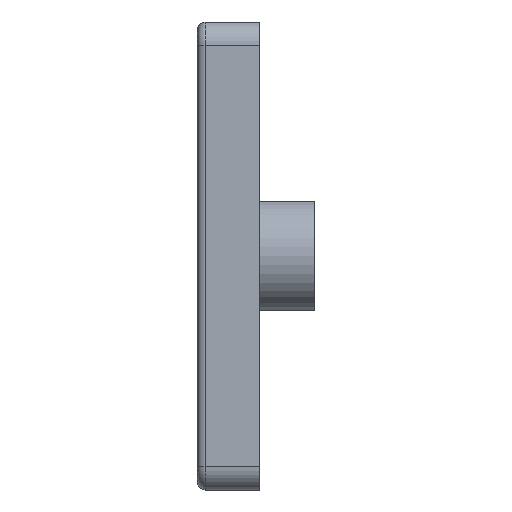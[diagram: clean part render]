
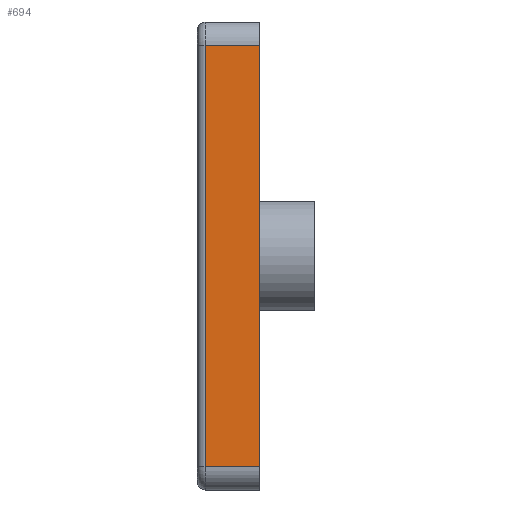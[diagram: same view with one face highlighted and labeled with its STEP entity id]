
A CAD part, left-side view. The second image highlights one B-rep face of the part: STEP entity #694.
In plain terms, the highlighted planar face has unit normal (-1, 0, 0).
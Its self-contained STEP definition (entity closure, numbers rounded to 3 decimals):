
#7 = ORIENTED_EDGE ( 'NONE', *, *, #922, .T. ) ;
#57 = VECTOR ( 'NONE', #436, 1000. ) ;
#105 = DIRECTION ( 'NONE',  ( 0., 0., -1. ) ) ;
#365 = EDGE_CURVE ( 'NONE', #1638, #986, #495, .T. ) ;
#436 = DIRECTION ( 'NONE',  ( 0., -1., 0. ) ) ;
#467 = LINE ( 'NONE', #664, #1777 ) ;
#477 = DIRECTION ( 'NONE',  ( 0., 0., 1. ) ) ;
#487 = CARTESIAN_POINT ( 'NONE',  ( -32.618, 3.5, -4.551 ) ) ;
#490 = ORIENTED_EDGE ( 'NONE', *, *, #2012, .T. ) ;
#495 = LINE ( 'NONE', #1913, #57 ) ;
#664 = CARTESIAN_POINT ( 'NONE',  ( -32.618, 4., -31.551 ) ) ;
#694 = ADVANCED_FACE ( 'NONE', ( #854 ), #925, .F. ) ;
#711 = CARTESIAN_POINT ( 'NONE',  ( -32.618, 3.5, -31.551 ) ) ;
#786 = AXIS2_PLACEMENT_3D ( 'NONE', #1741, #1094, #105 ) ;
#854 = FACE_OUTER_BOUND ( 'NONE', #2087, .T. ) ;
#904 = CARTESIAN_POINT ( 'NONE',  ( -32.618, 0., -31.551 ) ) ;
#922 = EDGE_CURVE ( 'NONE', #1638, #1060, #1813, .T. ) ;
#925 = PLANE ( 'NONE',  #786 ) ;
#986 = VERTEX_POINT ( 'NONE', #1429 ) ;
#1060 = VERTEX_POINT ( 'NONE', #711 ) ;
#1094 = DIRECTION ( 'NONE',  ( 1., 0., 0. ) ) ;
#1376 = VECTOR ( 'NONE', #1920, 1000. ) ;
#1429 = CARTESIAN_POINT ( 'NONE',  ( -32.618, 0., -4.551 ) ) ;
#1446 = LINE ( 'NONE', #1464, #1495 ) ;
#1464 = CARTESIAN_POINT ( 'NONE',  ( -32.618, 0., -31.551 ) ) ;
#1495 = VECTOR ( 'NONE', #477, 1000. ) ;
#1638 = VERTEX_POINT ( 'NONE', #487 ) ;
#1642 = DIRECTION ( 'NONE',  ( 0., -1., 0. ) ) ;
#1741 = CARTESIAN_POINT ( 'NONE',  ( -32.618, 4., -31.551 ) ) ;
#1774 = ORIENTED_EDGE ( 'NONE', *, *, #365, .F. ) ;
#1777 = VECTOR ( 'NONE', #1642, 1000. ) ;
#1780 = VERTEX_POINT ( 'NONE', #904 ) ;
#1813 = LINE ( 'NONE', #2072, #1376 ) ;
#1913 = CARTESIAN_POINT ( 'NONE',  ( -32.618, 4., -4.551 ) ) ;
#1920 = DIRECTION ( 'NONE',  ( 0., 0., -1. ) ) ;
#2012 = EDGE_CURVE ( 'NONE', #1780, #986, #1446, .T. ) ;
#2072 = CARTESIAN_POINT ( 'NONE',  ( -32.618, 3.5, -31.551 ) ) ;
#2087 = EDGE_LOOP ( 'NONE', ( #1774, #7, #2110, #490 ) ) ;
#2101 = EDGE_CURVE ( 'NONE', #1060, #1780, #467, .T. ) ;
#2110 = ORIENTED_EDGE ( 'NONE', *, *, #2101, .T. ) ;
